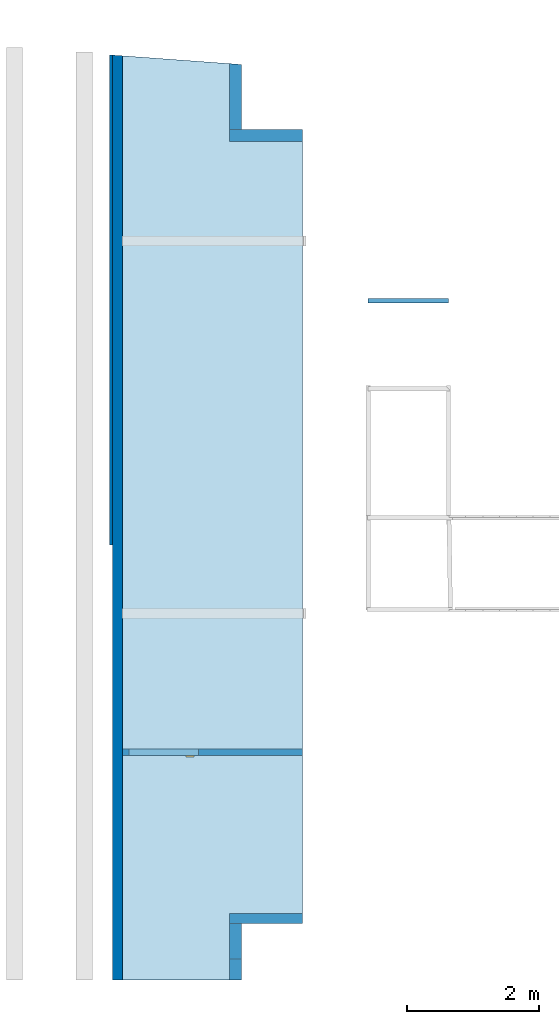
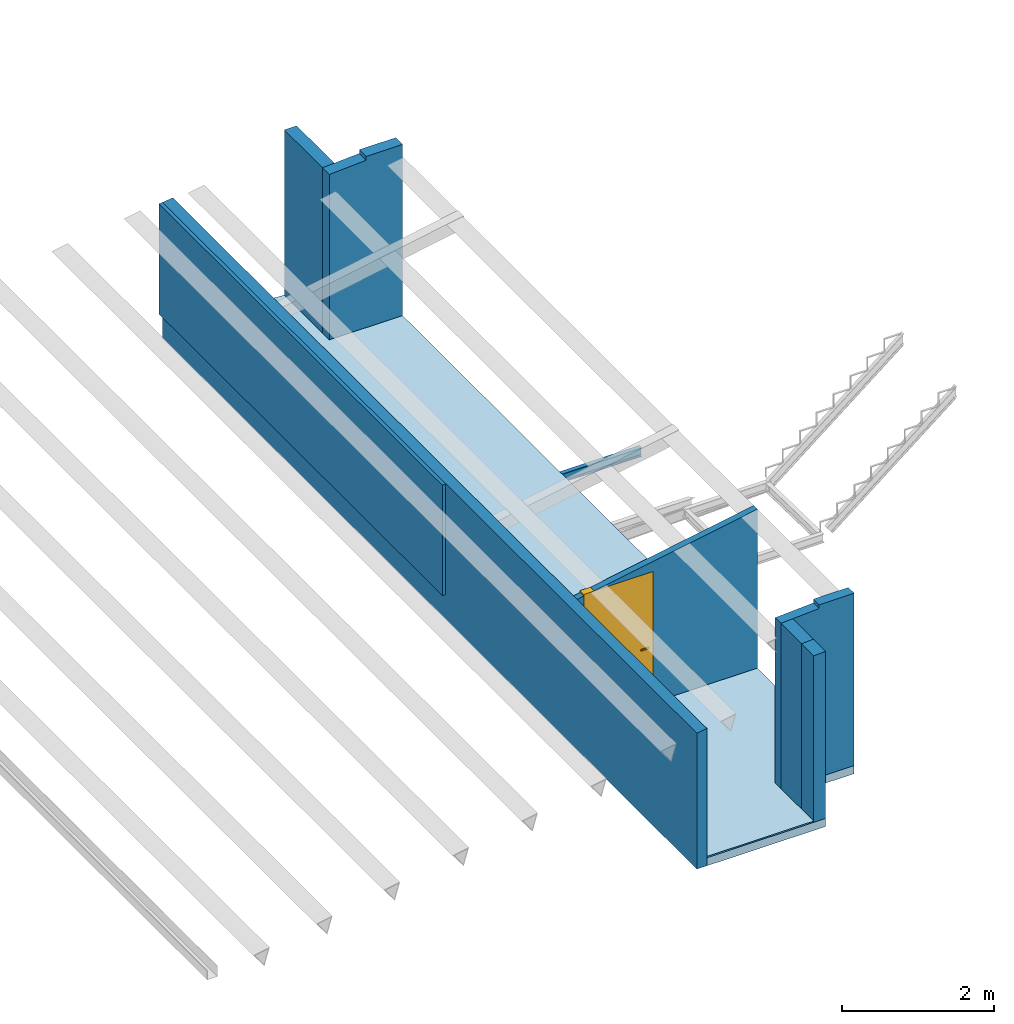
# One storey, part 2 of 4: 8 walls, 2 slabs, 1 beam, 1 door, 1 opening.
"""IFC2X3 building model written with IfcOpenShell, lengths in metres."""

import ifcopenshell
import ifcopenshell.guid

model = None  # the IFC model being written
_history = None  # IfcOwnerHistory: only IFC2X3 demands one
_inside = {}  # id of a spatial element -> (the spatial element, [elements in it])
_under = {}  # id of a project, library or spatial element -> (it, [spatial elements below it])
_declared = {}  # id of a project -> (the project, [libraries it declares])
_typed = {}  # id of a type object -> (the type object, [elements of that type])
_made_of = {}  # id of a material, layer set ... -> (it, [elements and type objects made of it])


def new_model(schema):
    """Start an empty IFC model of exactly this schema.

    Asked for "IFC4X3", IfcOpenShell would pick the latest addendum, in which some entities
    have other attributes; the version numbers below select the first issue.
    IFC2X3 requires an IfcOwnerHistory on every rooted entity: one is made here for all.
    """
    global model, _history
    if schema == "IFC4X3":
        model = ifcopenshell.file(schema_version=(4, 3, 0, 0))
    else:
        model = ifcopenshell.file(schema=schema)
    _inside.clear()
    _under.clear()
    _declared.clear()
    _typed.clear()
    _made_of.clear()
    _history = None
    if model.schema == "IFC2X3":
        org = make("IfcOrganization", Name="unknown")
        user = make(
            "IfcPersonAndOrganization",
            ThePerson=make("IfcPerson", FamilyName="unknown"),
            TheOrganization=org,
        )
        app = make(
            "IfcApplication",
            ApplicationDeveloper=org,
            Version="unknown",
            ApplicationFullName="unknown",
            ApplicationIdentifier="unknown",
        )
        _history = make(
            "IfcOwnerHistory",
            OwningUser=user,
            OwningApplication=app,
            ChangeAction="ADDED",
            CreationDate=0,
        )
    return model


def make(cls, **values):
    """One entity of the class cls with the attributes given. An attribute that is None is left unset."""
    return model.create_entity(
        cls, **{name: value for name, value in values.items() if value is not None}
    )


def entity(cls, *values):
    """Any entity or typed value of the class cls, its attributes in the order of the schema. None: left unset."""
    e = model.create_entity(cls)
    for i, value in enumerate(values):
        if value is not None:
            e[i] = value
    return e


def rooted(cls, **values):
    """An entity with a GlobalId (a new one), such as an element, a storey or a relation."""
    return make(cls, GlobalId=ifcopenshell.guid.new(), OwnerHistory=_history, **values)


def si_unit(unit_type, name, prefix=None):
    """IfcSIUnit, for example si_unit("LENGTHUNIT", "METRE", prefix="MILLI")."""
    return make("IfcSIUnit", UnitType=unit_type, Prefix=prefix, Name=name)


def converted_unit(unit_type, name, factor, base, dimensions=None, offset=None):
    """IfcConversionBasedUnit, such as the inch: factor (a typed value) times the base unit."""
    return make(
        "IfcConversionBasedUnit"
        if offset is None
        else "IfcConversionBasedUnitWithOffset",
        ConversionOffset=offset,
        Dimensions=None
        if dimensions is None
        else entity("IfcDimensionalExponents", *dimensions),
        UnitType=unit_type,
        Name=name,
        ConversionFactor=make(
            "IfcMeasureWithUnit", ValueComponent=factor, UnitComponent=base
        ),
    )


def derived_unit(unit_type, elements):
    """IfcDerivedUnit: a product of units, each with its exponent."""
    return make(
        "IfcDerivedUnit",
        Elements=[
            make("IfcDerivedUnitElement", Unit=unit, Exponent=power)
            for unit, power in elements
        ],
        UnitType=unit_type,
    )


def assignment(units):
    """IfcUnitAssignment: the units of a project."""
    return None if units is None else make("IfcUnitAssignment", Units=units)


def point(xyz):
    """IfcCartesianPoint."""
    return None if xyz is None else make("IfcCartesianPoint", Coordinates=xyz)


def direction(xyz):
    """IfcDirection."""
    return None if xyz is None else make("IfcDirection", DirectionRatios=xyz)


def frame(location, z_axis=None, x_axis=None):
    """IfcAxis2Placement3D, a coordinate frame: its origin and axes. An axis left out is left unset."""
    return make(
        "IfcAxis2Placement3D",
        Location=point(location),
        Axis=direction(z_axis),
        RefDirection=direction(x_axis),
    )


def frame_2d(location, x_axis=None):
    """IfcAxis2Placement2D, a coordinate frame in the plane: its origin and x axis."""
    return make(
        "IfcAxis2Placement2D", Location=point(location), RefDirection=direction(x_axis)
    )


def origin():
    """The frame at (0, 0, 0) with its axes left unset."""
    return frame((0.0, 0.0, 0.0))


def origin_2d_with_axis():
    """The frame at (0, 0) in the plane with the x axis (1, 0) written out."""
    return frame_2d((0.0, 0.0), x_axis=(1.0, 0.0))


def place(relative_to, where):
    """IfcLocalPlacement: puts the frame where relative to a parent placement (None: the world)."""
    return make(
        "IfcLocalPlacement", PlacementRelTo=relative_to, RelativePlacement=where
    )


def context(
    kind, dimensions, precision=None, world=None, true_north=None, identifier=None
):
    """IfcGeometricRepresentationContext, for example the 3D "Model" context."""
    return make(
        "IfcGeometricRepresentationContext",
        ContextIdentifier=identifier,
        ContextType=kind,
        CoordinateSpaceDimension=dimensions,
        Precision=precision,
        WorldCoordinateSystem=world,
        TrueNorth=true_north,
    )


def subcontext(parent, identifier, kind, view, scale=None):
    """IfcGeometricRepresentationSubContext, for example "Body" below "Model"."""
    return make(
        "IfcGeometricRepresentationSubContext",
        ContextIdentifier=identifier,
        ContextType=kind,
        ParentContext=parent,
        TargetScale=scale,
        TargetView=view,
    )


def project(units=None, contexts=None):
    """IfcProject with its units and contexts."""
    return rooted(
        "IfcProject",
        Name="project",
        RepresentationContexts=contexts,
        UnitsInContext=assignment(units),
    )


def spatial(cls, under=None, at=None, **own):
    """A site, building, storey or space (cls), placed at a placement, below another one or the project."""
    s = rooted(cls, ObjectPlacement=at, **own)
    if under is not None:
        _under.setdefault(under.id(), (under, []))[1].append(s)
    return s


def polyline(points):
    """IfcPolyline through the points."""
    return make("IfcPolyline", Points=[point(p) for p in points])


def circle_curve(where, radius):
    """IfcCircle in the frame where."""
    return make("IfcCircle", Position=where, Radius=radius)


def parameter(value):
    """IfcParameterValue: where a trimmed curve begins or ends, as a parameter of its basis curve."""
    return model.create_entity("IfcParameterValue", value)


def trimmed(basis, trim1, trim2, sense, master):
    """IfcTrimmedCurve: the piece of a basis curve between two trims."""
    return make(
        "IfcTrimmedCurve",
        BasisCurve=basis,
        Trim1=trim1,
        Trim2=trim2,
        SenseAgreement=sense,
        MasterRepresentation=master,
    )


def segment(curve, same_sense, transition):
    """IfcCompositeCurveSegment."""
    return make(
        "IfcCompositeCurveSegment",
        Transition=transition,
        SameSense=same_sense,
        ParentCurve=curve,
    )


def composite_curve(segments, self_intersect=None):
    """IfcCompositeCurve: segments joined end to end."""
    return make("IfcCompositeCurve", Segments=segments, SelfIntersect=self_intersect)


def profile(cls, at=None, kind="AREA", **sizes):
    """A parametric profile (cls). Its sizes go by their IFC names, for example OverallWidth=200.0."""
    return make(cls, ProfileType=kind, Position=at, **sizes)


def rectangle(**sizes):
    """IfcRectangleProfileDef."""
    return profile("IfcRectangleProfileDef", **sizes)


def outline(outer, holes=None, kind="AREA"):
    """IfcArbitraryClosedProfileDef: a profile drawn as a closed curve; with holes, ...WithVoids."""
    if holes is None:
        return make("IfcArbitraryClosedProfileDef", ProfileType=kind, OuterCurve=outer)
    return make(
        "IfcArbitraryProfileDefWithVoids",
        ProfileType=kind,
        OuterCurve=outer,
        InnerCurves=holes,
    )


def extrude(swept, where, along, depth):
    """IfcExtrudedAreaSolid: the profile swept, set in the frame where, extruded along a direction by depth."""
    return make(
        "IfcExtrudedAreaSolid",
        SweptArea=swept,
        Position=where,
        ExtrudedDirection=direction(along),
        Depth=depth,
    )


def clip(a, b, op="DIFFERENCE"):
    """IfcBooleanClippingResult: the solid a cut by the half space b."""
    return make(
        "IfcBooleanClippingResult", Operator=op, FirstOperand=a, SecondOperand=b
    )


def bounded_halfspace(plane, agree, where, boundary):
    """IfcPolygonalBoundedHalfSpace: a half space limited to a polygon's prism."""
    return make(
        "IfcPolygonalBoundedHalfSpace",
        BaseSurface=make("IfcPlane", Position=plane),
        AgreementFlag=agree,
        Position=where,
        PolygonalBoundary=boundary,
    )


def faces_of(points, faces, orient=None, outer=None):
    """IfcFace entities. A face is a list of loops; a loop is a list of indices into points, from 0.

    orient and outer hold one flag for each loop. By default every Orientation is true, the
    first loop of a face is its IfcFaceOuterBound and the others are IfcFaceBound.
    """
    made = []
    for i, loops in enumerate(faces):
        bounds = []
        for j, loop in enumerate(loops):
            is_outer = j == 0 if outer is None else outer[i][j]
            bounds.append(
                make(
                    "IfcFaceOuterBound" if is_outer else "IfcFaceBound",
                    Bound=make("IfcPolyLoop", Polygon=[points[k] for k in loop]),
                    Orientation=True if orient is None else orient[i][j],
                )
            )
        made.append(make("IfcFace", Bounds=bounds))
    return made


def faceted_brep(points, faces, orient=None, outer=None, voids=None):
    """IfcFacetedBrep: a solid bounded by flat faces; with voids (closed shells), ...WithVoids."""
    shared = [point(p) for p in points]
    hull = make("IfcClosedShell", CfsFaces=faces_of(shared, faces, orient, outer))
    if voids is None:
        return make("IfcFacetedBrep", Outer=hull)
    return make(
        "IfcFacetedBrepWithVoids",
        Outer=hull,
        Voids=[
            make(cls, CfsFaces=faces_of(shared, fs, o, b)) for cls, fs, o, b in voids
        ],
    )


def shape(context_of_items, identifier, shape_type, items):
    """IfcShapeRepresentation: the items that make up one representation, for example the "Body"."""
    return make(
        "IfcShapeRepresentation",
        ContextOfItems=context_of_items,
        RepresentationIdentifier=identifier,
        RepresentationType=shape_type,
        Items=items,
    )


def source(mapping_origin, context_of_items, identifier, shape_type, items):
    """IfcRepresentationMap: a shape defined once, which mapped items show again and again."""
    return make(
        "IfcRepresentationMap",
        MappingOrigin=mapping_origin,
        MappedRepresentation=shape(context_of_items, identifier, shape_type, items),
    )


def transform(
    local_origin,
    x_axis=None,
    y_axis=None,
    z_axis=None,
    scale=None,
    scale2=None,
    scale3=None,
    uniform=True,
):
    """IfcCartesianTransformationOperator3D, or its non-uniform kind. x_axis, y_axis, z_axis: its Axis1, 2, 3."""
    if uniform:
        return make(
            "IfcCartesianTransformationOperator3D",
            Axis1=direction(x_axis),
            Axis2=direction(y_axis),
            LocalOrigin=point(local_origin),
            Scale=scale,
            Axis3=direction(z_axis),
        )
    return make(
        "IfcCartesianTransformationOperator3DnonUniform",
        Axis1=direction(x_axis),
        Axis2=direction(y_axis),
        LocalOrigin=point(local_origin),
        Scale=scale,
        Axis3=direction(z_axis),
        Scale2=scale2,
        Scale3=scale3,
    )


def mapped(mapping_source, mapping_target):
    """IfcMappedItem: shows the shape of a source again, moved by a transform."""
    return make(
        "IfcMappedItem", MappingSource=mapping_source, MappingTarget=mapping_target
    )


def material(Name=None, Category=None):
    """IfcMaterial."""
    return make("IfcMaterial", Name=Name, Category=Category)


def material_list(materials):
    """IfcMaterialList."""
    return make("IfcMaterialList", Materials=materials)


def layer(
    of_material, thickness, ventilated=None, Name=None, Category=None, Priority=None
):
    """IfcMaterialLayer: one layer of a wall or slab, of a material (None: an air gap)."""
    return make(
        "IfcMaterialLayer",
        Material=of_material,
        LayerThickness=thickness,
        IsVentilated=ventilated,
        Name=Name,
        Category=Category,
        Priority=Priority,
    )


def layer_set(layers, Name=None):
    """IfcMaterialLayerSet."""
    return make("IfcMaterialLayerSet", MaterialLayers=layers, LayerSetName=Name)


def layer_usage(for_layer_set, set_direction, sense, offset, extent=None):
    """IfcMaterialLayerSetUsage: how a layer set lies in its element."""
    return make(
        "IfcMaterialLayerSetUsage",
        ForLayerSet=for_layer_set,
        LayerSetDirection=set_direction,
        DirectionSense=sense,
        OffsetFromReferenceLine=offset,
        ReferenceExtent=extent,
    )


def made_of(thing, what):
    """Note that an element or type object is made of a material, layer set ...; save() writes the relation."""
    if what is not None:
        _made_of.setdefault(what.id(), (what, []))[1].append(thing)
    return thing


def type_object(cls, material=None, **own):
    """A type object (cls), such as IfcWallType, which elements share."""
    return made_of(rooted(cls, **own), material)


def type_shapes(of_type, sources):
    """Give a type object the sources (RepresentationMaps) that its elements show as mapped items."""
    of_type.RepresentationMaps = sources


def element(
    cls,
    number,
    at=None,
    inside=None,
    cuts=None,
    type_object=None,
    material=None,
    context=None,
    identifier="Body",
    shape_type=None,
    held_by="IfcProductDefinitionShape",
    body=None,
    shapes=None,
    **own,
):
    """One element of the class cls, such as IfcWall. Its Tag is "e" and its number.

    at: its placement. inside: the storey or other place that contains it. cuts: it is an
    opening in that element (IfcRelVoidsElement). A single representation is given by context,
    identifier, shape_type and body (its items); several are given by shapes. held_by: the class
    of the entity that holds the representations. save() writes the other relations.
    """
    e = rooted(cls, Tag="e%d" % number, ObjectPlacement=at, **own)
    if body is not None:
        shapes = [shape(context, identifier, shape_type, body)]
    if shapes is not None:
        e.Representation = make(held_by, Representations=shapes)
    if inside is not None:
        _inside.setdefault(inside.id(), (inside, []))[1].append(e)
    if cuts is not None:
        rooted(
            "IfcRelVoidsElement", RelatingBuildingElement=cuts, RelatedOpeningElement=e
        )
    if type_object is not None:
        _typed.setdefault(type_object.id(), (type_object, []))[1].append(e)
    return made_of(e, material)


def fill(opening, filler):
    """IfcRelFillsElement: the door or window that sits in an opening."""
    return rooted(
        "IfcRelFillsElement",
        RelatingOpeningElement=opening,
        RelatedBuildingElement=filler,
    )


def aggregate(whole, parts):
    """IfcRelAggregates: a whole, such as a stair, and the parts it consists of."""
    return rooted("IfcRelAggregates", RelatingObject=whole, RelatedObjects=parts)


def save(model, path):
    """Write the relations noted so far, then the file.

    IfcRelAggregates (storeys below a building ...), IfcRelContainedInSpatialStructure (elements
    in a storey), IfcRelDefinesByType, IfcRelAssociatesMaterial and IfcRelDeclares: one each for
    every whole, place, type object, material and project.
    """
    for whole, parts in _under.values():
        aggregate(whole, parts)
    for where, things in _inside.values():
        rooted(
            "IfcRelContainedInSpatialStructure",
            RelatedElements=things,
            RelatingStructure=where,
        )
    for kind, things in _typed.values():
        rooted("IfcRelDefinesByType", RelatedObjects=things, RelatingType=kind)
    for what, things in _made_of.values():
        rooted("IfcRelAssociatesMaterial", RelatedObjects=things, RelatingMaterial=what)
    for by, libraries in _declared.values():
        rooted("IfcRelDeclares", RelatingContext=by, RelatedDefinitions=libraries)
    model.write(path)


model = new_model("IFC2X3")

# Units and contexts
model_context = context("Model", 3, precision=1e-05, world=origin(), true_north=direction((6.12303176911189e-17, 1.0)))
body_context = subcontext(model_context, "Body", "Model", "MODEL_VIEW")
ifc_project = project(units=[si_unit("LENGTHUNIT", "METRE"), si_unit("AREAUNIT", "SQUARE_METRE"), si_unit("VOLUMEUNIT", "CUBIC_METRE"), converted_unit("PLANEANGLEUNIT", "DEGREE", entity("IfcRatioMeasure", 0.0174532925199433), si_unit("PLANEANGLEUNIT", "RADIAN"), dimensions=[0, 0, 0, 0, 0, 0, 0]), si_unit("MASSUNIT", "GRAM", prefix="KILO"), derived_unit("MASSDENSITYUNIT", [(si_unit("MASSUNIT", "GRAM", prefix="KILO"), 1), (si_unit("LENGTHUNIT", "METRE"), -3)]), derived_unit("MOMENTOFINERTIAUNIT", [(si_unit("LENGTHUNIT", "METRE"), 4)]), si_unit("TIMEUNIT", "SECOND"), si_unit("FREQUENCYUNIT", "HERTZ"), si_unit("THERMODYNAMICTEMPERATUREUNIT", "DEGREE_CELSIUS"), derived_unit("THERMALTRANSMITTANCEUNIT", [(si_unit("MASSUNIT", "GRAM", prefix="KILO"), 1), (si_unit("THERMODYNAMICTEMPERATUREUNIT", "KELVIN"), -1), (si_unit("TIMEUNIT", "SECOND"), -3)]), derived_unit("VOLUMETRICFLOWRATEUNIT", [(si_unit("LENGTHUNIT", "METRE"), 3), (si_unit("TIMEUNIT", "SECOND"), -1)]), si_unit("ELECTRICCURRENTUNIT", "AMPERE"), si_unit("ELECTRICVOLTAGEUNIT", "VOLT"), si_unit("POWERUNIT", "WATT"), si_unit("FORCEUNIT", "NEWTON", prefix="KILO"), si_unit("ILLUMINANCEUNIT", "LUX"), si_unit("LUMINOUSFLUXUNIT", "LUMEN"), si_unit("LUMINOUSINTENSITYUNIT", "CANDELA"), derived_unit("USERDEFINED", [(si_unit("MASSUNIT", "GRAM", prefix="KILO"), -1), (si_unit("LENGTHUNIT", "METRE"), -2), (si_unit("TIMEUNIT", "SECOND"), 3), (si_unit("LUMINOUSFLUXUNIT", "LUMEN"), 1)]), derived_unit("LINEARVELOCITYUNIT", [(si_unit("LENGTHUNIT", "METRE"), 1), (si_unit("TIMEUNIT", "SECOND"), -1)]), si_unit("PRESSUREUNIT", "PASCAL"), derived_unit("USERDEFINED", [(si_unit("LENGTHUNIT", "METRE"), -2), (si_unit("MASSUNIT", "GRAM", prefix="KILO"), 1), (si_unit("TIMEUNIT", "SECOND"), -2)]), derived_unit("LINEARFORCEUNIT", [(si_unit("MASSUNIT", "GRAM", prefix="KILO"), 1), (si_unit("LENGTHUNIT", "METRE"), 1), (si_unit("TIMEUNIT", "SECOND"), -2), (si_unit("LENGTHUNIT", "METRE"), -1)]), derived_unit("PLANARFORCEUNIT", [(si_unit("MASSUNIT", "GRAM", prefix="KILO"), 1), (si_unit("LENGTHUNIT", "METRE"), 1), (si_unit("TIMEUNIT", "SECOND"), -2), (si_unit("LENGTHUNIT", "METRE"), -2)])], contexts=[model_context])

# Site, building, storey
site_placement = place(None, origin())
site = spatial("IfcSite", under=ifc_project, at=site_placement, Name="Superficie", CompositionType="ELEMENT")
building_placement = place(site_placement, origin())
building = spatial("IfcBuilding", under=site, at=building_placement, Name="Telegestiones", CompositionType="ELEMENT")
storey_placement = place(building_placement, frame((0.0, 0.0, 3.21)))
storey = spatial("IfcBuildingStorey", under=building, at=storey_placement, Name="Entrepiso_NPT", CompositionType="ELEMENT", Elevation=3.21)

# Beam
ifc_material_1 = material(Name="Metal - Acero - 345 MPa")
beam_type = type_object("IfcBeamType", Name="IPN - Secciones en I con alas cónicas:IPN 140", PredefinedType="NOTDEFINED")
beam_placement = place(storey_placement, frame((6.3478126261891, 6.21162508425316, -1.40972499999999)))
element("IfcBeam", 1, at=beam_placement, inside=storey, type_object=beam_type, material=ifc_material_1, Name="IPN - Secciones en I con alas cónicas:IPN 140", ObjectType="IPN - Secciones en I con alas cónicas:IPN 140", context=body_context, shape_type="SweptSolid", body=[
    extrude(outline(composite_curve([segment(polyline([(-0.0699999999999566, -0.0330000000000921), (-0.0666671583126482, -0.0330000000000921)]), True, "CONTINUOUS"), segment(trimmed(circle_curve(frame_2d((-0.0666671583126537, -0.0296000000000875), x_axis=(0.0, -1.0)), 0.00340000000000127), [parameter(0.0)], [parameter(82.0303896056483)], True, "PARAMETER"), True, "CONTINUOUS"), segment(polyline([(-0.0632999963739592, -0.030071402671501), (-0.0601763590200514, -0.00775970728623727)]), True, "CONTINUOUS"), segment(trimmed(circle_curve(frame_2d((-0.0545314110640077, -0.00855000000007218), x_axis=(-0.990341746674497, 0.138647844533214)), 0.00569999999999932), [parameter(277.969610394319)], [parameter(0.0)], True, "PARAMETER"), False, "CONTINUOUS"), segment(polyline([(-0.0545314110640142, -0.00285000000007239), (0.0545314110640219, -0.00284999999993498)]), True, "CONTINUOUS"), segment(trimmed(circle_curve(frame_2d((0.0545314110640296, -0.00854999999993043), x_axis=(0.0, 1.0)), 0.00569999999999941), [parameter(277.969610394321)], [parameter(0.0)], True, "PARAMETER"), False, "CONTINUOUS"), segment(polyline([(0.0601763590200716, -0.00775970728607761), (0.0632999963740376, -0.0300714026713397)]), True, "CONTINUOUS"), segment(trimmed(circle_curve(frame_2d((0.0666671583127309, -0.0295999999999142), x_axis=(-0.990341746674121, -0.138647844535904)), 0.00340000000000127), [parameter(0.0)], [parameter(82.0303896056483)], True, "PARAMETER"), True, "CONTINUOUS"), segment(polyline([(0.0666671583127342, -0.0329999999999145), (0.0700000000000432, -0.0329999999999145)]), True, "CONTINUOUS"), segment(polyline([(0.0700000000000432, -0.0329999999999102), (0.0699999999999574, 0.0330000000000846)]), True, "CONTINUOUS"), segment(polyline([(0.0699999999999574, 0.0330000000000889), (0.0666671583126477, 0.0330000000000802)]), True, "CONTINUOUS"), segment(trimmed(circle_curve(frame_2d((0.0666671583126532, 0.0296000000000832), x_axis=(0.0, 1.0)), 0.00340000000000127), [parameter(0.0)], [parameter(82.0303896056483)], True, "PARAMETER"), True, "CONTINUOUS"), segment(polyline([(0.0632999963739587, 0.0300714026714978), (0.0601763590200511, 0.00775970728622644)]), True, "CONTINUOUS"), segment(trimmed(circle_curve(frame_2d((0.0545314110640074, 0.00855000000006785), x_axis=(0.990341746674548, -0.138647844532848)), 0.005699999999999), [parameter(277.969610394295)], [parameter(0.0)], True, "PARAMETER"), False, "CONTINUOUS"), segment(polyline([(0.0545314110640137, 0.00285000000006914), (-0.0545314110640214, 0.00284999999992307)]), True, "CONTINUOUS"), segment(trimmed(circle_curve(frame_2d((-0.0545314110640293, 0.00854999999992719), x_axis=(0.0, -1.0)), 0.0056999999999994), [parameter(277.969610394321)], [parameter(0.0)], True, "PARAMETER"), False, "CONTINUOUS"), segment(polyline([(-0.0601763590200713, 0.00775970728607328), (-0.0632999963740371, 0.0300714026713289)]), True, "CONTINUOUS"), segment(trimmed(circle_curve(frame_2d((-0.0666671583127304, 0.0295999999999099), x_axis=(0.990341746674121, 0.138647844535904)), 0.00340000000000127), [parameter(0.0)], [parameter(82.0303896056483)], True, "PARAMETER"), True, "CONTINUOUS"), segment(polyline([(-0.0666671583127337, 0.0329999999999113), (-0.0700000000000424, 0.0329999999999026)]), True, "CONTINUOUS"), segment(polyline([(-0.0700000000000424, 0.0329999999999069), (-0.0699999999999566, -0.0330000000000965)]), True, "CONTINUOUS")], self_intersect=False)), frame((0.00039287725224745, 0.0, -0.0700000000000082), z_axis=(1.0, 0.0, 0.0), x_axis=(0.0, 0.0, -1.0)), (0.0, 0.0, 1.0), 1.22085),
])

# Slabs
ifc_material_2 = material(Name="Suelo por defecto")
ifc_layer_1 = layer(ifc_material_2, 0.13)
ifc_layer_set_1 = layer_set([ifc_layer_1], Name="Suelo:ARQ-SU-13-HoA")
ifc_layer_usage_1 = layer_usage(ifc_layer_set_1, "AXIS3", "POSITIVE", 0.0)
slab_type_1 = type_object("IfcSlabType", Name="Suelo:ARQ-SU-13-HoA", PredefinedType="FLOOR", material=ifc_layer_set_1)
slab_1_placement = place(storey_placement, origin())
element("IfcSlab", 2, at=slab_1_placement, inside=storey, type_object=slab_type_1, material=ifc_layer_usage_1, Name="Suelo:ARQ-SU-13-HoA", ObjectType="Suelo:ARQ-SU-13-HoA", PredefinedType="FLOOR", context=body_context, shape_type="SweptSolid", body=[
    extrude(outline(polyline([(-6.92338305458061, -1.58236928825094), (7.08603389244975, -1.58236928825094), (6.95426443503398, 0.217630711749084), (5.96661694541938, 0.217630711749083), (5.96661694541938, 1.14710786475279), (-6.06338305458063, 1.14710786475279), (-6.06338305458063, 0.217630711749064), (-6.92338305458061, 0.217630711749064), (-6.92338305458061, -1.58236928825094)])), frame((4.20718191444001, 2.83699028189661, -0.0199999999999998), z_axis=(0.0, 0.0, -1.0), x_axis=(0.0, 1.0, 0.0)), (0.0, 0.0, 1.0), 0.13),
])
ifc_material_3 = material(Name="Porcelanato 60x60")
ifc_layer_2 = layer(ifc_material_3, 0.02)
ifc_layer_set_2 = layer_set([ifc_layer_2], Name="Suelo:ARQ-SU-2-Cer")
ifc_layer_usage_2 = layer_usage(ifc_layer_set_2, "AXIS3", "POSITIVE", 0.0)
slab_type_2 = type_object("IfcSlabType", Name="Suelo:ARQ-SU-2-Cer", PredefinedType="FLOOR", material=ifc_layer_set_2)
slab_2_placement = place(storey_placement, origin())
element("IfcSlab", 3, at=slab_2_placement, inside=storey, type_object=slab_type_2, material=ifc_layer_usage_2, Name="Suelo:ARQ-SU-2-Cer", ObjectType="Suelo:ARQ-SU-2-Cer", PredefinedType="FLOOR", context=body_context, shape_type="SweptSolid", body=[
    extrude(outline(polyline([(-6.91759794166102, -1.49792371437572), (7.09236115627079, -1.49792371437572), (6.97322649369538, 0.129482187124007), (5.79240205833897, 0.129482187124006), (5.79240205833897, 1.23895934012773), (-5.90759794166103, 1.23895934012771), (-5.90759794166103, 0.129482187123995), (-6.91759794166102, 0.129482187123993), (-6.91759794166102, -1.49792371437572)])), frame((4.11533043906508, 2.83120516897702, 0.0), z_axis=(0.0, 0.0, -1.0), x_axis=(0.0, 1.0, 0.0)), (0.0, 0.0, 1.0), 0.0199999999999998),
])

# Walls
ifc_material_4 = material(Name="Muro por defecto")
ifc_layer_3 = layer(ifc_material_4, 0.15)
ifc_layer_set_3 = layer_set([ifc_layer_3], Name="Muro básico:ARQ-MU-IN-15-Gen")
ifc_layer_usage_3 = layer_usage(ifc_layer_set_3, "AXIS2", "NEGATIVE", 0.075)
wall_type_1 = type_object("IfcWallType", Name="Muro básico:ARQ-MU-IN-15-Gen", PredefinedType="STANDARD", material=ifc_layer_set_3)
wall_1_placement = place(storey_placement, frame((2.54981262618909, 9.93400496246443, -0.15), z_axis=(0.0, 0.0, 1.0), x_axis=(0.0, -1.0, 0.0)))
element("IfcWallStandardCase", 4, at=wall_1_placement, inside=storey, type_object=wall_type_1, material=ifc_layer_usage_3, Name="Muro básico:ARQ-MU-IN-15-Gen", ObjectType="Muro básico:ARQ-MU-IN-15-Gen", context=body_context, shape_type="Clipping", body=[
    clip(extrude(outline(polyline([(14.0203977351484, -0.075), (14.0203977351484, 0.075), (0.0109807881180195, 0.0749999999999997), (0.0, -0.0750000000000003), (14.0203977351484, -0.075)])), origin(), (0.0, 0.0, 1.0), 2.20379999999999), bounded_halfspace(frame((0.0, -0.0750000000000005, 2.1768), z_axis=(0.0, -0.177152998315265, 0.984183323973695), x_axis=(1.0, 0.0, 0.0)), False, frame((0.0, -0.0750000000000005, 2.1768)), polyline([(0.0, 0.0), (7.72942047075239, 0.0), (7.77942047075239, 0.0), (14.0203977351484, 0.0), (14.0203977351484, 0.15), (10.6203977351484, 0.15), (10.5203977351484, 0.15), (0.0109807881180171, 0.15), (0.0, 0.0)]))),
])
ifc_layer_usage_4 = layer_usage(ifc_layer_set_3, "AXIS2", "POSITIVE", -0.075)
wall_2_placement = place(storey_placement, frame((5.35428977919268, -3.15139277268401, -0.0199999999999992), z_axis=(0.0, 0.0, 1.0), x_axis=(-1.0, 0.0, 0.0)))
element("IfcWallStandardCase", 5, at=wall_2_placement, inside=storey, type_object=wall_type_1, material=ifc_layer_usage_4, Name="Muro básico:ARQ-MU-IN-15-Gen", ObjectType="Muro básico:ARQ-MU-IN-15-Gen", context=body_context, shape_type="Clipping", body=[
    clip(extrude(rectangle(XDim=1.10947715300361, YDim=0.149999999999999, at=frame_2d((0.554738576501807, 0.0), x_axis=(-1.0, 0.0))), origin(), (0.0, 0.0, 1.0), 2.76), bounded_halfspace(frame((0.53, -0.0750000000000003, 2.7), z_axis=(0.0598922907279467, 0.0, 0.998204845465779), x_axis=(0.0, -1.0, 0.0)), False, frame((0.53, -0.0750000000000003, 2.7)), polyline([(0.0, 0.0), (0.579477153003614, 0.0), (0.579477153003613, 0.15), (0.399477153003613, 0.15), (0.0, 0.15), (0.0, 0.0)]))),
])
ifc_layer_4 = layer(ifc_material_4, 0.18)
ifc_layer_set_4 = layer_set([ifc_layer_4], Name="Muro básico:ARQ-MU-IN-18-Gen")
ifc_layer_usage_5 = layer_usage(ifc_layer_set_4, "AXIS2", "POSITIVE", -0.09)
wall_type_2 = type_object("IfcWallType", Name="Muro básico:ARQ-MU-IN-18-Gen", PredefinedType="STANDARD", material=ifc_layer_set_4)
wall_3_placement = place(storey_placement, frame((5.3542897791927, 8.71360722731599, -0.0199999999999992), z_axis=(0.0, 0.0, 1.0), x_axis=(-1.0, 0.0, 0.0)))
element("IfcWallStandardCase", 6, at=wall_3_placement, inside=storey, type_object=wall_type_2, material=ifc_layer_usage_5, Name="Muro básico:ARQ-MU-IN-18-Gen", ObjectType="Muro básico:ARQ-MU-IN-18-Gen", context=body_context, shape_type="Clipping", body=[
    clip(extrude(rectangle(XDim=1.10947715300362, YDim=0.18, at=frame_2d((0.554738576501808, -1.11022302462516e-16), x_axis=(-1.0, 0.0))), origin(), (0.0, 0.0, 1.0), 2.76), bounded_halfspace(frame((0.55, -0.0900000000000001, 2.7), z_axis=(0.0598922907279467, 0.0, 0.998204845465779), x_axis=(0.0, -1.0, 0.0)), False, frame((0.55, -0.0900000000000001, 2.7)), polyline([(0.0, 0.0), (0.379477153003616, 0.0), (0.559477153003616, 0.0), (0.559477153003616, 0.179999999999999), (0.0, 0.18), (0.0, 0.0)]))),
])
ifc_layer_usage_6 = layer_usage(ifc_layer_set_4, "AXIS2", "POSITIVE", -0.09)
wall_4_placement = place(storey_placement, frame((4.33481262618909, 8.80360722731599, -0.0199999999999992), z_axis=(0.0, 0.0, 1.0), x_axis=(0.0, 1.0, 0.0)))
element("IfcWallStandardCase", 7, at=wall_4_placement, inside=storey, type_object=wall_type_2, material=ifc_layer_usage_6, Name="Muro básico:ARQ-MU-IN-18-Gen", ObjectType="Muro básico:ARQ-MU-IN-18-Gen", context=body_context, shape_type="Clipping", body=[
    clip(extrude(outline(polyline([(0.987647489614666, -0.0900000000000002), (1.00082443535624, 0.09), (0.0, 0.0900000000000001), (0.0, -0.0900000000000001), (0.987647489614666, -0.0900000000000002)])), origin(), (0.0, 0.0, 1.0), 2.67723137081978), bounded_halfspace(frame((0.0, -0.0900000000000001, 2.67723137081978), z_axis=(0.0, 0.0598922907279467, 0.998204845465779), x_axis=(1.0, 0.0, 0.0)), False, frame((0.0, -0.0900000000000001, 2.67723137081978)), polyline([(0.0, 0.0), (0.987647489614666, 0.0), (1.00082443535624, 0.179999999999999), (0.0, 0.18), (0.0, 0.0)]))),
])
ifc_layer_usage_7 = layer_usage(ifc_layer_set_4, "AXIS2", "NEGATIVE", 0.09)
wall_5_placement = place(storey_placement, frame((4.33481262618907, -3.22639277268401, -0.0199999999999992), z_axis=(0.0, 0.0, 1.0), x_axis=(0.0, -1.0, 0.0)))
element("IfcWallStandardCase", 8, at=wall_5_placement, inside=storey, type_object=wall_type_2, material=ifc_layer_usage_7, Name="Muro básico:ARQ-MU-IN-18-Gen", ObjectType="Muro básico:ARQ-MU-IN-18-Gen", context=body_context, shape_type="Clipping", body=[
    clip(extrude(rectangle(XDim=0.539999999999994, YDim=0.18, at=frame_2d((0.269999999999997, -1.31838984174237e-16), x_axis=(-1.0, 0.0))), origin(), (0.0, 0.0, 1.0), 2.67603137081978), bounded_halfspace(frame((0.0, -0.0900000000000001, 2.66523137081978), z_axis=(0.0, -0.0598922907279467, 0.998204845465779), x_axis=(-1.0, 0.0, 0.0)), False, frame((0.0, -0.0900000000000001, 2.66523137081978)), polyline([(0.0, 0.0), (0.539999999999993, 0.0), (0.539999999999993, 0.18), (0.0, 0.18), (0.0, 0.0)]))),
])
ifc_layer_usage_8 = layer_usage(ifc_layer_set_4, "AXIS2", "NEGATIVE", 0.09)
wall_6_placement = place(storey_placement, frame((4.33481262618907, -3.766392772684, -0.0199999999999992), z_axis=(0.0, 0.0, 1.0), x_axis=(0.0, -1.0, 0.0)))
element("IfcWallStandardCase", 9, at=wall_6_placement, inside=storey, type_object=wall_type_2, material=ifc_layer_usage_8, Name="Muro básico:ARQ-MU-IN-18-Gen", ObjectType="Muro básico:ARQ-MU-IN-18-Gen", context=body_context, shape_type="Clipping", body=[
    clip(extrude(rectangle(XDim=0.320000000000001, YDim=0.18, at=frame_2d((0.16, -2.77555756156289e-17), x_axis=(-1.0, 0.0))), origin(), (0.0, 0.0, 1.0), 2.67603137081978), bounded_halfspace(frame((0.0, -0.0900000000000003, 2.66523137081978), z_axis=(0.0, -0.0598922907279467, 0.998204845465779), x_axis=(-1.0, 0.0, 0.0)), False, frame((0.0, -0.0900000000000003, 2.66523137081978)), polyline([(0.0, 0.0), (0.320000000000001, 0.0), (0.32, 0.18), (0.0, 0.18), (0.0, 0.0)]))),
])
ifc_material_5 = material(Name="Placa yeso entera")
ifc_layer_5 = layer(ifc_material_5, 0.012)
ifc_material_6 = material(Name="Estructura de Hierro Galvanizado")
ifc_layer_6 = layer(ifc_material_6, 0.038)
ifc_layer_set_5 = layer_set([ifc_layer_5, ifc_layer_6], Name="Muro básico:ARQ-RE-IN-5-Ye-M2")
ifc_layer_usage_9 = layer_usage(ifc_layer_set_5, "AXIS2", "NEGATIVE", 0.025)
wall_type_3 = type_object("IfcWallType", Name="Muro básico:ARQ-RE-IN-5-Ye-M2", PredefinedType="STANDARD", material=ifc_layer_set_5)
wall_7_placement = place(storey_placement, frame((2.44981262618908, 2.50458449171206, 0.252000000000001), z_axis=(0.0, 0.0, 1.0), x_axis=(0.0, 1.0, 0.0)))
element("IfcWallStandardCase", 10, at=wall_7_placement, inside=storey, type_object=wall_type_3, material=ifc_layer_usage_9, Name="Muro básico:ARQ-RE-IN-5-Ye-M2", ObjectType="Muro básico:ARQ-RE-IN-5-Ye-M2", context=body_context, shape_type="Clipping", body=[
    clip(extrude(outline(polyline([(7.42942047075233, -0.0249999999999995), (7.43308073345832, 0.025), (0.050000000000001, 0.0250000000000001), (0.0, 0.025), (0.0, -0.0175940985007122), (0.0, -0.0249999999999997), (7.42942047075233, -0.0249999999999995)])), origin(), (0.0, 0.0, 1.0), 1.7748), bounded_halfspace(frame((0.0, -0.0249999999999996, 1.77479999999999), z_axis=(0.0, 0.177152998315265, 0.984183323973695), x_axis=(-1.0, 0.0, 0.0)), False, frame((0.0, -0.0249999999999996, 1.77479999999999)), polyline([(0.0, 0.0), (7.42942047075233, 0.0), (7.43308073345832, 0.0500000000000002), (0.0500000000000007, 0.0499999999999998), (0.0, 0.0499999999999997), (0.0, 0.0)]))),
])

# Wall, opening, door
ifc_layer_7 = layer(ifc_material_5, 0.012)
ifc_layer_8 = layer(ifc_material_6, 0.073)
ifc_layer_9 = layer(ifc_material_5, 0.015)
ifc_layer_set_6 = layer_set([ifc_layer_7, ifc_layer_8, ifc_layer_9], Name="Muro básico:ARQ-MU-IN-10-Ye-T6")
wall_type_4 = type_object("IfcWallType", Name="Muro básico:ARQ-MU-IN-10-Ye-T6", PredefinedType="STANDARD", material=ifc_layer_set_6)
wall_8_placement = place(storey_placement, frame((2.62481262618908, -0.636392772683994, -0.0199999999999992)))
wall_8 = element("IfcWall", 11, at=wall_8_placement, inside=storey, type_object=wall_type_4, Name="Muro básico:ARQ-MU-IN-10-Ye-T6", ObjectType="Muro básico:ARQ-MU-IN-10-Ye-T6", context=body_context, shape_type="Brep", body=[
    faceted_brep([(0.0, -0.05, 0.0), (2.72947715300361, -0.05, 0.0), (2.72947715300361, -0.05, 2.56510588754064), (0.256666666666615, -0.05, 2.11999999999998), (1.15, -0.05, 2.11999999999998), (1.15, -0.05, 0.0199999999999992), (0.0999999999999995, -0.05, 0.0199999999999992), (0.0999999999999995, -0.05, 2.09179999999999), (0.0, -0.05, 2.07379999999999), (2.72947715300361, 0.05, 0.0), (0.0, 0.05, 0.0), (0.0, 0.05, 2.07379999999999), (0.0999999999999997, 0.0499999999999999, 2.09179999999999), (0.0999999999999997, 0.0499999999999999, 0.0199999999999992), (1.15, 0.0499999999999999, 0.0199999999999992), (1.15, 0.0499999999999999, 2.11999999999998), (0.256666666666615, 0.05, 2.11999999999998), (2.72947715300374, 0.05, 2.56510588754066)], [[[0, 1, 2, 3, 4, 5, 6, 7, 8]], [[9, 10, 11, 12, 13, 14, 15, 16, 17]], [[1, 0, 10, 9]], [[2, 1, 9, 17]], [[0, 8, 11, 10]], [[2, 17, 16, 3]], [[14, 5, 4, 15]], [[15, 4, 3, 16]], [[6, 13, 12, 7]], [[5, 14, 13, 6]], [[11, 8, 7, 12]]]),
])
opening_placement = place(wall_8_placement, frame((0.0999999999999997, -0.0500000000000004, 0.0199999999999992)))
opening = element("IfcOpeningElement", 12, at=opening_placement, cuts=wall_8, Name="ARQ-PU-INT-90x210-Mad-C3:ARQ-PU-INT-95x210-Mad:1", ObjectType="Opening", context=body_context, shape_type="SweptSolid", body=[
    extrude(rectangle(XDim=2.09999999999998, YDim=1.05, at=frame_2d((1.04999999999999, 0.525), x_axis=(1.0, 0.0))), frame((0.0, 0.0, 0.0), z_axis=(0.0, 1.0, 0.0), x_axis=(0.0, 0.0, 1.0)), (0.0, 0.0, 1.0), 0.1),
])
ifc_material_7 = material(Name="Caoba")
ifc_material_8 = material(Name="Aluminio")
ifc_material_9 = material(Name="<Unnamed>")
ifc_material_list_1 = material_list([ifc_material_7, ifc_material_8, ifc_material_8, ifc_material_8, ifc_material_8, ifc_material_8, ifc_material_8, ifc_material_9, ifc_material_9, ifc_material_7])
ifc_material_list_2 = material_list([ifc_material_7, ifc_material_8, ifc_material_8, ifc_material_8, ifc_material_8, ifc_material_8, ifc_material_8, ifc_material_9, ifc_material_9, ifc_material_7])
door_style = type_object("IfcDoorStyle", Name="ARQ-PU-INT-90x210-Mad-C3:ARQ-PU-INT-95x210-Mad", ConstructionType="NOTDEFINED", OperationType="DOUBLE_SWING_LEFT", ParameterTakesPrecedence=False, Sizeable=False, material=ifc_material_list_2)
shared_shape = source(origin(), body_context, "Body", "SweptSolid", [
    extrude(outline(polyline([(-0.524999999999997, -1.06249999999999), (0.525000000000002, -1.06249999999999), (0.525000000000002, 1.03749999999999), (0.475000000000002, 1.03749999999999), (0.475000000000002, -1.01249999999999), (-0.475000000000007, -1.01249999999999), (-0.475000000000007, 1.03749999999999), (-0.524999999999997, 1.03749999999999), (-0.524999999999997, -1.06249999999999)])), frame((0.52500000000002, 0.2, 1.03749999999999), z_axis=(0.0, -1.0, 0.0), x_axis=(-1.0, 0.0, 0.0)), (0.0, 0.0, 1.0), 0.1),
    extrude(rectangle(XDim=0.00504261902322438, YDim=0.0554154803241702, at=frame_2d((-1.90819582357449e-17, -2.64545330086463e-17), x_axis=(0.0, 1.0))), frame((0.83001001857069, 0.124943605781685, 0.409593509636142), z_axis=(-1.0, 0.0, 0.0), x_axis=(0.0, 0.857492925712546, -0.514495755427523)), (0.0, 0.0, 1.0), 0.610020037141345),
    extrude(rectangle(XDim=0.00504261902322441, YDim=0.0554154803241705, at=frame_2d((-8.67361737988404e-18, -1.36609473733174e-17), x_axis=(0.0, 1.0))), frame((0.83001001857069, 0.124943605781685, 0.289593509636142), z_axis=(-1.0, 0.0, 0.0), x_axis=(0.0, 0.857492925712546, -0.514495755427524)), (0.0, 0.0, 1.0), 0.610020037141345),
    extrude(rectangle(XDim=0.00504261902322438, YDim=0.0554154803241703, at=frame_2d((-6.93889390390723e-18, 4.33680868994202e-18), x_axis=(0.0, 1.0))), frame((0.83001001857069, 0.124943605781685, 0.379593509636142), z_axis=(-1.0, 0.0, 0.0), x_axis=(0.0, 0.857492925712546, -0.514495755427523)), (0.0, 0.0, 1.0), 0.610020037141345),
    extrude(rectangle(XDim=0.00504261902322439, YDim=0.0554154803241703, at=frame_2d((-1.90819582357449e-17, -2.75387351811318e-17), x_axis=(0.0, 1.0))), frame((0.83001001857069, 0.124943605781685, 0.349593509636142), z_axis=(-1.0, 0.0, 0.0), x_axis=(0.0, 0.857492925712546, -0.514495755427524)), (0.0, 0.0, 1.0), 0.610020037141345),
    extrude(rectangle(XDim=0.00504261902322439, YDim=0.0554154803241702, at=frame_2d((-3.46944695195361e-18, 1.95156391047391e-18), x_axis=(0.0, 1.0))), frame((0.83001001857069, 0.124943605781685, 0.319593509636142), z_axis=(-1.0, 0.0, 0.0), x_axis=(0.0, 0.857492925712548, -0.51449575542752)), (0.0, 0.0, 1.0), 0.610020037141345),
    extrude(outline(polyline([(-0.0999999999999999, -0.325010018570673), (0.1, -0.325010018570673), (0.0999999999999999, 0.325010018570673), (-0.1, 0.325010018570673), (-0.0999999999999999, -0.325010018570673)]), holes=[polyline([(-0.0799999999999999, -0.305010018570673), (-0.0800000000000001, 0.305010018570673), (0.0799999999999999, 0.305010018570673), (0.0800000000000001, -0.305010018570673), (-0.0799999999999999, -0.305010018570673)])]), frame((0.525000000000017, 0.15, 0.35), z_axis=(0.0, -1.0, 0.0), x_axis=(0.0, 0.0, -1.0)), (0.0, 0.0, 1.0), 0.05),
    extrude(rectangle(XDim=0.12, YDim=0.02, at=origin_2d_with_axis()), frame((0.919677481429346, 0.09, 0.900000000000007)), (0.0, 0.0, 1.0), 0.0200000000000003),
    extrude(rectangle(XDim=0.12, YDim=0.02, at=origin_2d_with_axis()), frame((0.919677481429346, 0.16, 0.900000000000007), z_axis=(0.0, 0.0, 1.0), x_axis=(-1.0, 0.0, 0.0)), (0.0, 0.0, 1.0), 0.0200000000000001),
    extrude(outline(polyline([(-1.02499999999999, -0.475000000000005), (1.02499999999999, -0.475000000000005), (1.02499999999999, 0.475000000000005), (-1.02499999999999, 0.475000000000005), (-1.02499999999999, -0.475000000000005)]), holes=[polyline([(0.57499999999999, -0.325010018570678), (0.57499999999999, 0.325010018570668), (0.77499999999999, 0.325010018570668), (0.77499999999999, -0.325010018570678), (0.57499999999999, -0.325010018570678)])]), frame((0.525000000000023, 0.15, 1.02499999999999), z_axis=(0.0, -1.0, 0.0), x_axis=(0.0, 0.0, -1.0)), (0.0, 0.0, 1.0), 0.05),
])
type_shapes(door_style, [shared_shape])
door_placement = place(opening_placement, frame((0.0, -0.0999999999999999, 0.0)))
door = element("IfcDoor", 13, at=door_placement, inside=storey, type_object=door_style, material=ifc_material_list_1, Name="ARQ-PU-INT-90x210-Mad-C3:ARQ-PU-INT-95x210-Mad", ObjectType="ARQ-PU-INT-90x210-Mad-C3:ARQ-PU-INT-95x210-Mad", OverallHeight=2.09999999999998, OverallWidth=1.05, context=body_context, shape_type="MappedRepresentation", body=[
    mapped(shared_shape, transform((0.0, 0.0, 0.0), scale=1.0)),
])
fill(opening, door)

save(model, "model.ifc")
